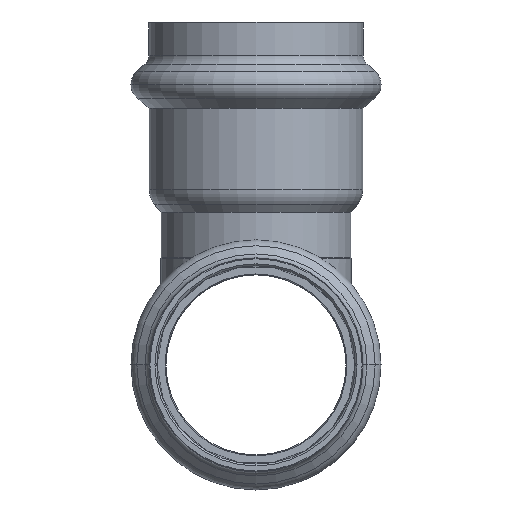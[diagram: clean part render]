
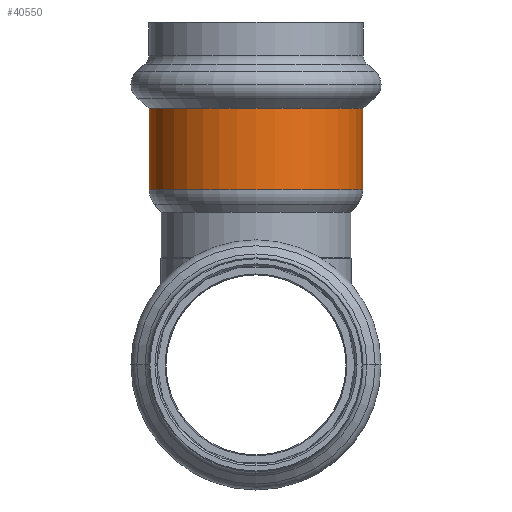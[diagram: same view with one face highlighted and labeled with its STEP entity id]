
A CAD part, front view. The second image highlights one B-rep face of the part: STEP entity #40550.
In plain terms, the highlighted cylindrical face has radius 22.9 mm (diameter 45.8 mm), a partial arc.
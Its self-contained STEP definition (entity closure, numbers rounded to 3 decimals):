
#38980=CARTESIAN_POINT('',(53.906,10.162,37.492))
;
#38990=VERTEX_POINT('',#38980);
#39080=CARTESIAN_POINT('',(8.106,10.162,37.492));
#39090=VERTEX_POINT('',#39080);
#39120=CARTESIAN_POINT('',(31.006,10.162,37.492))
;
#39130=DIRECTION('',(0.,0.,1.));
#39140=DIRECTION('',(1.,0.,0.));
#39150=AXIS2_PLACEMENT_3D('',#39120,#39130,#39140);
#39160=CIRCLE('',#39150,22.9);
#39170=EDGE_CURVE('',#39090,#38990,#39160,.T.);
#40240=CARTESIAN_POINT('',(31.006,10.162,46.262))
;
#40250=DIRECTION('',(0.,0.,1.));
#40260=DIRECTION('',(1.,0.,0.));
#40270=AXIS2_PLACEMENT_3D('',#40240,#40250,#40260);
#40280=CYLINDRICAL_SURFACE('',#40270,22.9);
#40290=CARTESIAN_POINT('',(8.106,10.162,46.262));
#40300=DIRECTION('',(0.,0.,1.));
#40310=VECTOR('',#40300,1.);
#40320=LINE('',#40290,#40310);
#40330=CARTESIAN_POINT('',(8.106,10.162,55.031));
#40340=VERTEX_POINT('',#40330);
#40350=EDGE_CURVE('',#39090,#40340,#40320,.T.);
#40360=ORIENTED_EDGE('',*,*,#40350,.F.);
#40370=CARTESIAN_POINT('',(31.006,10.162,55.031))
;
#40380=DIRECTION('',(0.,0.,1.));
#40390=DIRECTION('',(1.,0.,0.));
#40400=AXIS2_PLACEMENT_3D('',#40370,#40380,#40390);
#40410=CIRCLE('',#40400,22.9);
#40420=CARTESIAN_POINT('',(53.906,10.162,55.031))
;
#40430=VERTEX_POINT('',#40420);
#40440=EDGE_CURVE('',#40340,#40430,#40410,.T.);
#40450=ORIENTED_EDGE('',*,*,#40440,.F.);
#40460=CARTESIAN_POINT('',(53.906,10.162,46.262))
;
#40470=DIRECTION('',(0.,0.,1.));
#40480=VECTOR('',#40470,1.);
#40490=LINE('',#40460,#40480);
#40500=EDGE_CURVE('',#38990,#40430,#40490,.T.);
#40510=ORIENTED_EDGE('',*,*,#40500,.T.);
#40520=ORIENTED_EDGE('',*,*,#39170,.T.);
#40530=EDGE_LOOP('',(#40520,#40510,#40450,#40360));
#40540=FACE_OUTER_BOUND('',#40530,.T.);
#40550=ADVANCED_FACE('',(#40540),#40280,.T.);
